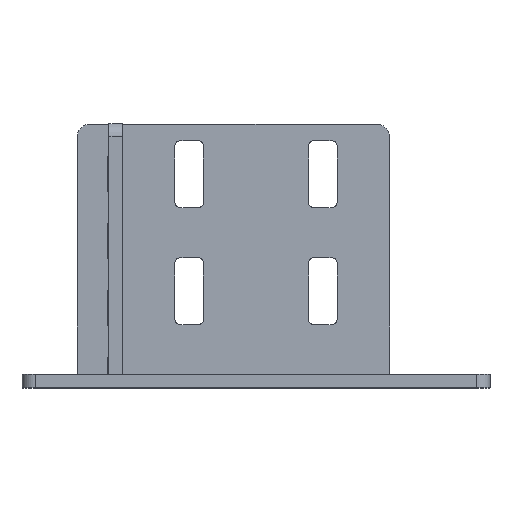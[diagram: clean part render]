
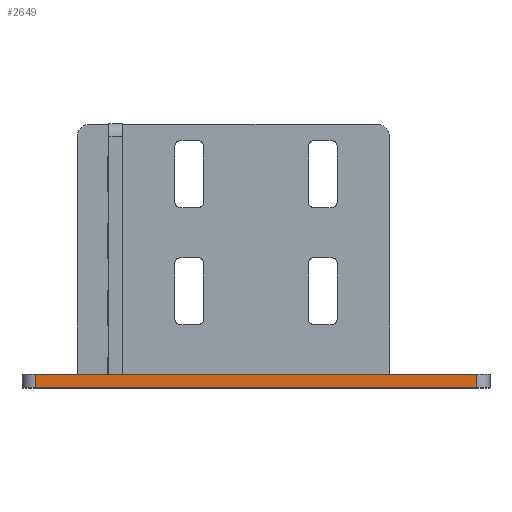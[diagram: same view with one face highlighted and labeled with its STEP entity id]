
A CAD part, top view. The second image highlights one B-rep face of the part: STEP entity #2649.
In plain terms, the highlighted planar face has unit normal (0, 0, 1).
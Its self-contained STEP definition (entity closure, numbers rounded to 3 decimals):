
#74 = LINE ( 'NONE', #3245, #1191 ) ;
#409 = CARTESIAN_POINT ( 'NONE',  ( -28.122, 0., 68.609 ) ) ;
#428 = EDGE_LOOP ( 'NONE', ( #2227, #5154, #729, #1099 ) ) ;
#440 = CARTESIAN_POINT ( 'NONE',  ( -28.122, 4., 68.609 ) ) ;
#729 = ORIENTED_EDGE ( 'NONE', *, *, #4868, .F. ) ;
#733 = DIRECTION ( 'NONE',  ( 0., -1., 0. ) ) ;
#857 = DIRECTION ( 'NONE',  ( 1., 0., 0. ) ) ;
#912 = PLANE ( 'NONE',  #4586 ) ;
#924 = VECTOR ( 'NONE', #857, 1000. ) ;
#1099 = ORIENTED_EDGE ( 'NONE', *, *, #4292, .T. ) ;
#1191 = VECTOR ( 'NONE', #733, 1000. ) ;
#1224 = VECTOR ( 'NONE', #2736, 1000. ) ;
#1291 = VERTEX_POINT ( 'NONE', #409 ) ;
#1350 = DIRECTION ( 'NONE',  ( 1., 0., 0. ) ) ;
#1581 = VERTEX_POINT ( 'NONE', #3006 ) ;
#1737 = CARTESIAN_POINT ( 'NONE',  ( -28.122, 4., 68.609 ) ) ;
#1811 = CARTESIAN_POINT ( 'NONE',  ( 103.878, 4., 68.609 ) ) ;
#2112 = CARTESIAN_POINT ( 'NONE',  ( -28.122, 4., 68.609 ) ) ;
#2170 = DIRECTION ( 'NONE',  ( -1., 0., 0. ) ) ;
#2227 = ORIENTED_EDGE ( 'NONE', *, *, #4515, .T. ) ;
#2328 = CARTESIAN_POINT ( 'NONE',  ( -28.122, 4., 68.609 ) ) ;
#2649 = ADVANCED_FACE ( 'NONE', ( #3082 ), #912, .F. ) ;
#2728 = VERTEX_POINT ( 'NONE', #1811 ) ;
#2736 = DIRECTION ( 'NONE',  ( 0., -1., 0. ) ) ;
#3006 = CARTESIAN_POINT ( 'NONE',  ( 103.878, 0., 68.609 ) ) ;
#3012 = CARTESIAN_POINT ( 'NONE',  ( -28.122, 0., 68.609 ) ) ;
#3082 = FACE_OUTER_BOUND ( 'NONE', #428, .T. ) ;
#3161 = LINE ( 'NONE', #440, #924 ) ;
#3245 = CARTESIAN_POINT ( 'NONE',  ( 103.878, 4., 68.609 ) ) ;
#3381 = VECTOR ( 'NONE', #1350, 1000. ) ;
#3541 = LINE ( 'NONE', #3012, #3381 ) ;
#3985 = VERTEX_POINT ( 'NONE', #2112 ) ;
#4292 = EDGE_CURVE ( 'NONE', #3985, #1291, #4593, .T. ) ;
#4515 = EDGE_CURVE ( 'NONE', #1291, #1581, #3541, .T. ) ;
#4586 = AXIS2_PLACEMENT_3D ( 'NONE', #1737, #4711, #2170 ) ;
#4593 = LINE ( 'NONE', #2328, #1224 ) ;
#4711 = DIRECTION ( 'NONE',  ( 0., 0., -1. ) ) ;
#4851 = EDGE_CURVE ( 'NONE', #2728, #1581, #74, .T. ) ;
#4868 = EDGE_CURVE ( 'NONE', #3985, #2728, #3161, .T. ) ;
#5154 = ORIENTED_EDGE ( 'NONE', *, *, #4851, .F. ) ;
